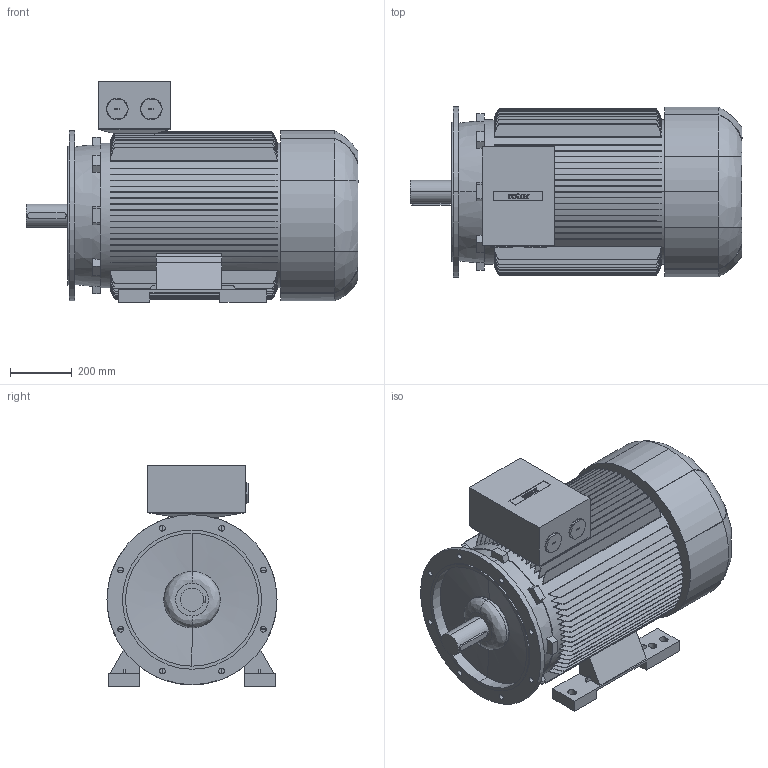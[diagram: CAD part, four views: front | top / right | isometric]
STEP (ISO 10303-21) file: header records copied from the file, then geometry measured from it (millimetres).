
FILE_DESCRIPTION (( 'STEP AP214' ), '1' );
FILE_NAME ('6RN280M04E32 IM2001.STEP', '2014-09-17T07:05:05', ( 'rbc_ict' ), ( 'REGAL' ), 'SwSTEP 2.0', 'SolidWorks 2012', '' );
FILE_SCHEMA (( 'AUTOMOTIVE_DESIGN' ));
Length unit declared in the file: millimetre
Products named in the file (1): 6RN280M04E32 IM2001
Bounding box: 1074 x 550 x 713 mm (x, y, z)
Volume: 190534209.2 mm3; surface area: 5511071.4 mm2
Topology: 1 solids, 1 shells, 753 faces, 1990 edges, 1317 vertices
Faces by surface type: plane 402, bspline 203, cylinder 142, cone 6
Entity records: 31498 total; most frequent: CARTESIAN_POINT 14258, ORIENTED_EDGE 3980, DIRECTION 2901, EDGE_CURVE 1990, VERTEX_POINT 1317, LINE 1029, VECTOR 1029, AXIS2_PLACEMENT_3D 936
